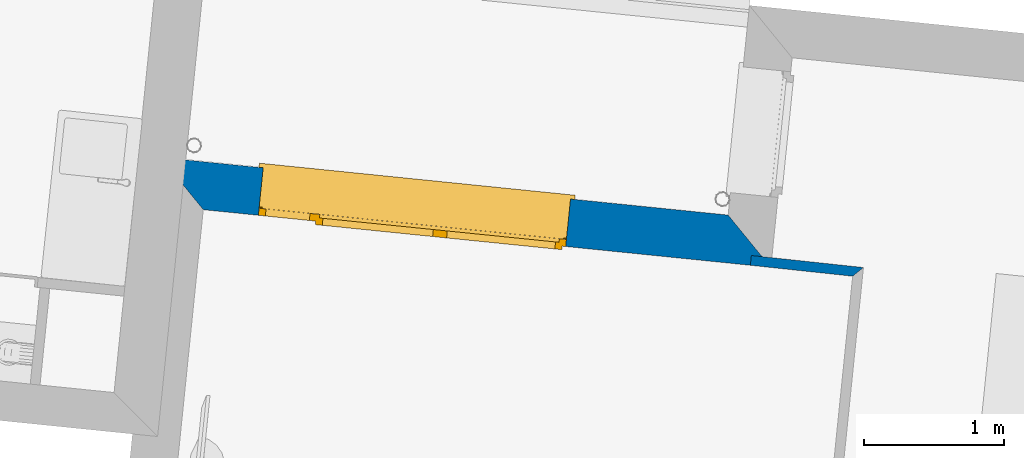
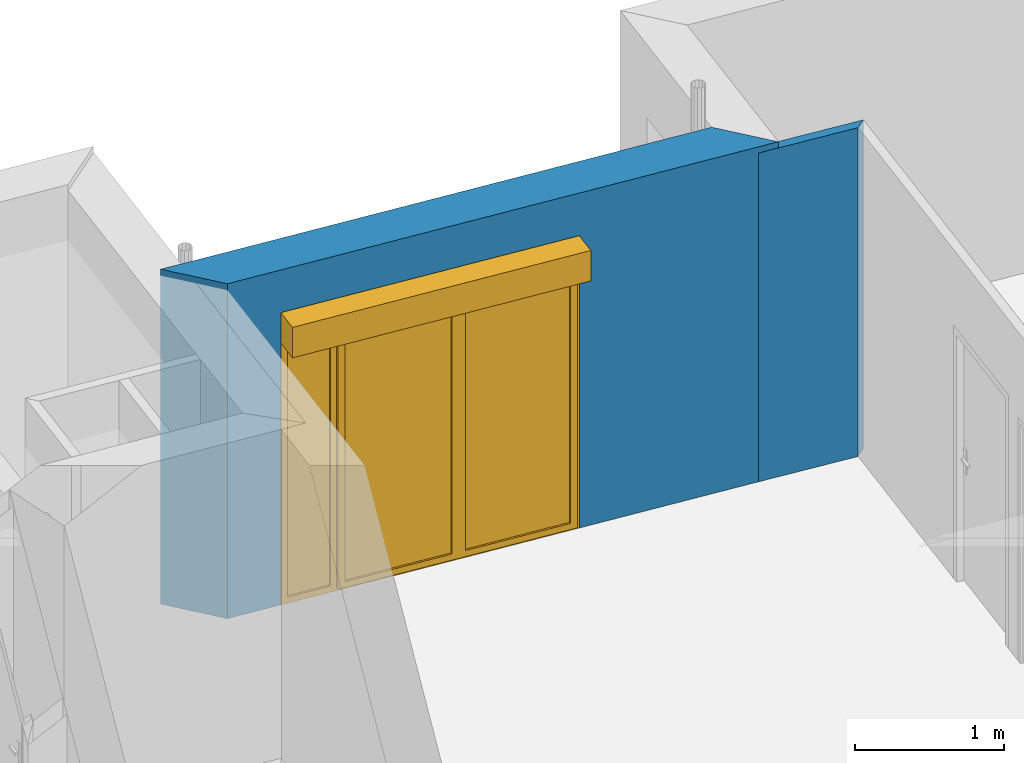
# One storey, part 66 of 164: 2 walls, 1 window, 1 opening.
"""IFC2X3 building model written with IfcOpenShell, lengths in millimetres."""

from ifc_helpers import new_model, entity, si_unit, converted_unit, derived_unit, money_unit, direction, frame, origin_with_axes, place, context, subcontext, project, spatial, polyline, outline, extrude, open_shell, faceted_brep, surface_model, source, transform, mapped, material, layer, layer_set, layer_usage, type_object, element, fill, save


model = new_model("IFC2X3")

# Units and contexts
model_context = context("Model", 3, precision=0.01, world=origin_with_axes(), true_north=direction((0.0, 1.0)))
body_context = subcontext(model_context, "Body", "Model", "MODEL_VIEW")
ifc_project = project(units=[si_unit("LENGTHUNIT", "METRE", prefix="MILLI"), si_unit("AREAUNIT", "SQUARE_METRE"), si_unit("VOLUMEUNIT", "CUBIC_METRE"), converted_unit("PLANEANGLEUNIT", "DEGREE", entity("IfcPlaneAngleMeasure", 0.0174532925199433), si_unit("PLANEANGLEUNIT", "RADIAN"), dimensions=[0, 0, 0, 0, 0, 0, 0]), money_unit("USD"), converted_unit("TIMEUNIT", "Year", entity("IfcTimeMeasure", 31557600.0), si_unit("TIMEUNIT", "SECOND"), dimensions=[0, 0, 1, 0, 0, 0, 0]), si_unit("MASSUNIT", "GRAM", prefix="KILO"), si_unit("THERMODYNAMICTEMPERATUREUNIT", "DEGREE_CELSIUS"), si_unit("LUMINOUSINTENSITYUNIT", "LUMEN"), si_unit("ENERGYUNIT", "JOULE", prefix="MEGA"), derived_unit("THERMALCONDUCTANCEUNIT", [(si_unit("POWERUNIT", "WATT"), 1), (si_unit("LENGTHUNIT", "METRE"), -1), (si_unit("THERMODYNAMICTEMPERATUREUNIT", "KELVIN"), -1)]), derived_unit("SPECIFICHEATCAPACITYUNIT", [(si_unit("ENERGYUNIT", "JOULE"), 1), (si_unit("MASSUNIT", "GRAM", prefix="KILO"), -1), (si_unit("THERMODYNAMICTEMPERATUREUNIT", "KELVIN"), -1)]), derived_unit("MASSDENSITYUNIT", [(si_unit("MASSUNIT", "GRAM", prefix="KILO"), 1), (si_unit("VOLUMEUNIT", "CUBIC_METRE"), -1)])], contexts=[model_context])

# Site, building, storey
site_placement = place(None, origin_with_axes())
site = spatial("IfcSite", under=ifc_project, at=site_placement, Name="Site", CompositionType="ELEMENT")
building_placement = place(site_placement, origin_with_axes())
building = spatial("IfcBuilding", under=site, at=building_placement, Name="Bâtiment", CompositionType="ELEMENT")
storey_placement = place(building_placement, frame((0.0, 0.0, 5750.0), z_axis=(0.0, 0.0, 1.0), x_axis=(1.0, 0.0, 0.0)))
storey = spatial("IfcBuildingStorey", under=building, at=storey_placement, Name="Etage1", CompositionType="ELEMENT", Elevation=5750.0)

# Wall
ifc_material_1 = material(Name="Hachure solide 268963992")
ifc_layer_1 = layer(ifc_material_1, 70.0, ventilated="UNKNOWN")
ifc_layer_set_1 = layer_set([ifc_layer_1], Name="Cloison 70 0826278243")
ifc_layer_usage_1 = layer_usage(ifc_layer_set_1, "AXIS2", "POSITIVE", 0.0)
wall_type_1 = type_object("IfcWallType", Name="Cloison 70 0826278243 70", PredefinedType="NOTDEFINED")
wall_1_placement = place(storey_placement, frame((2230381.889323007, -607089.6063491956, 0.0), z_axis=(0.0, 0.0, 1.0), x_axis=(0.9943267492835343, -0.1063687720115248, 0.0)))
element("IfcWallStandardCase", 1, at=wall_1_placement, inside=storey, type_object=wall_type_1, material=ifc_layer_usage_1, Name="Mur-148", context=body_context, shape_type="SweptSolid", body=[
    extrude(outline(polyline([(0.0, 0.0), (732.8617122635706, 0.0), (802.4980249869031, 70.0000000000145), (0.0, 70.00000000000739), (0.0, 0.0)])), origin_with_axes(), (0.0, 0.0, 1.0), 2700.0),
])

# Wall, opening, window
ifc_material_2 = material(Name="Parpaing 312445824")
ifc_layer_2 = layer(ifc_material_2, 180.0, ventilated="UNKNOWN")
ifc_material_3 = material(Name="Isolant styromousse 301821074")
ifc_layer_3 = layer(ifc_material_3, 160.0, ventilated="UNKNOWN")
ifc_layer_set_2 = layer_set([ifc_layer_2, ifc_layer_3], Name="isol int 18+16 0018356637")
ifc_layer_usage_2 = layer_usage(ifc_layer_set_2, "AXIS2", "NEGATIVE", 0.0)
wall_type_2 = type_object("IfcWallType", Name="isol int 18+16 0018356637 340", PredefinedType="NOTDEFINED")
wall_2_placement = place(storey_placement, frame((2226181.9085584, -606321.0365645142, 0.0), z_axis=(0.0, 0.0, 1.0), x_axis=(0.9948759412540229, -0.1011032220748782, 0.0)))
wall_2 = element("IfcWallStandardCase", 2, at=wall_2_placement, inside=storey, type_object=wall_type_2, material=ifc_layer_usage_2, Name="Mur-142", context=body_context, shape_type="SweptSolid", body=[
    extrude(outline(polyline([(340.0000000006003, -339.9999999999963), (4402.803978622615, -340.0000000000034), (4062.803978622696, 0.0), (-2.273736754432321e-10, 0.0), (340.0000000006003, -339.9999999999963)])), origin_with_axes(), (0.0, 0.0, 1.0), 2750.0),
])
opening_placement = place(wall_2_placement, frame((1834.470231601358, 0.0, 0.0), z_axis=(0.0, 0.0, 1.0), x_axis=(1.0, 0.0, 0.0)))
opening = element("IfcOpeningElement", 3, at=opening_placement, cuts=wall_2, Name="Fen-133", context=body_context, shape_type="Brep", body=[
    faceted_brep([(-1100.000000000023, -280.0000000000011, 2150.0), (1100.000000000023, -280.0000000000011, 2150.0), (1100.000000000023, 409.6578013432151, 2150.0), (-1100.000000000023, 409.6578013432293, 2150.0), (-1100.000000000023, -280.0000000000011, 2400.0), (1100.000000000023, -280.0000000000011, 2400.0), (1100.000000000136, -289.9999999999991, 2150.0), (1100.000000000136, -289.9999999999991, 0.0), (1100.000000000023, 409.6578013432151, 0.0), (-1100.000000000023, 409.6578013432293, 0.0), (-1100.000000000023, -289.999999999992, 2150.0), (-1100.000000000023, -289.999999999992, 0.0), (-1100.000000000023, -530.0000000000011, 2150.0), (-1100.000000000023, -530.0000000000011, 2400.0), (1100.000000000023, -530.0000000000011, 2400.0), (1100.000000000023, -530.0000000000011, 2150.0), (1100.000000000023, -749.6578013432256, 2150.0), (1100.000000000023, -749.6578013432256, 0.0), (-1100.000000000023, -749.6578013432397, 0.0), (-1100.000000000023, -749.6578013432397, 2150.0)], [[[0, 1, 2, 3]], [[1, 0, 4, 5]], [[1, 6, 7, 8, 2]], [[2, 8, 9, 3]], [[10, 0, 3, 9, 11]], [[0, 10, 12, 13, 4]], [[4, 13, 14, 5]], [[6, 1, 5, 14, 15]], [[6, 15, 16, 17, 7]], [[11, 9, 8, 7, 17, 18]], [[12, 10, 11, 18, 19]], [[12, 15, 14, 13]], [[15, 12, 19, 16]], [[19, 18, 17, 16]]]),
])
window_style = type_object("IfcWindowStyle", Name="Fenêtre châssis double variable 27", ConstructionType="NOTDEFINED", OperationType="TRIPLE_PANEL_VERTICAL", ParameterTakesPrecedence=False, Sizeable=False)
shared_shape = source(origin_with_axes(), body_context, "Body", "SurfaceModel", [
    surface_model("IfcShellBasedSurfaceModel", [(1100.0, -51.0, 40.00000000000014), (1100.0, -51.0, 50.00000000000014), (-1100.0, -51.0, 50.0), (-1100.0, -51.0, 40.0), (1130.0, -369.9999999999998, 28.96551724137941), (1130.0, -339.9999999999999, 30.00324289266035), (1100.0, -339.9999999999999, 30.00324289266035), (-1100.0, -339.9999999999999, 30.00324289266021), (-1130.0, -339.9999999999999, 30.00324289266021), (-1130.0, -369.9999999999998, 28.96551724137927), (1130.0, -369.9999999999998, 8.965517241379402), (-1130.0, -369.9999999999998, 8.965517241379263), (1130.0, -359.9999999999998, 18.9655172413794), (-1130.0, -359.9999999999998, 18.96551724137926)], [open_shell([[[0, 1, 2, 3]], [[4, 5, 6, 0, 3, 7, 8, 9]], [[10, 4, 9, 11]], [[12, 10, 11, 13]]])]),
    faceted_brep([(-1100.0, -60.0, 2400.0), (-1097.0, -60.0, 2400.0), (-1097.0, 189.9999999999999, 2400.0), (-1100.0, 189.9999999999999, 2400.0), (-1100.0, -60.0, 2150.0), (-1097.0, -60.0, 2150.0), (-1097.0, 189.9999999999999, 2150.0), (-1100.0, 189.9999999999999, 2150.0)], [[[0, 1, 2, 3]], [[4, 5, 1, 0]], [[1, 5, 6, 2]], [[3, 2, 6, 7]], [[0, 3, 7, 4]], [[7, 6, 5, 4]]]),
    faceted_brep([(1097.0, -59.99999999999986, 2400.0), (1100.0, -59.99999999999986, 2400.0), (1100.0, 190.0000000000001, 2400.0), (1097.0, 190.0000000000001, 2400.0), (1097.0, -59.99999999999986, 2150.0), (1100.0, -59.99999999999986, 2150.0), (1100.0, 190.0000000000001, 2150.0), (1097.0, 190.0000000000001, 2150.0)], [[[0, 1, 2, 3]], [[4, 5, 1, 0]], [[1, 5, 6, 2]], [[3, 2, 6, 7]], [[0, 3, 7, 4]], [[7, 6, 5, 4]]]),
    faceted_brep([(-1097.0, -59.99999999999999, 2150.0), (1097.0, -59.99999999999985, 2150.0), (1097.0, -59.99999999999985, 2400.0), (-1097.0, -59.99999999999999, 2400.0), (-1097.0, -56.99999999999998, 2150.0), (1097.0, -56.99999999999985, 2150.0), (1097.0, -56.99999999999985, 2397.0), (1097.0, 187.0000000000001, 2397.0), (1097.0, 187.0000000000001, 2153.0), (1097.0, -37.99999999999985, 2153.0), (1097.0, -37.99999999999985, 2150.0), (1097.0, 190.0000000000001, 2150.0), (1097.0, 190.0000000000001, 2400.0), (-1097.0, 189.9999999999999, 2400.0), (-1097.0, 189.9999999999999, 2150.0), (-1097.0, -37.99999999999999, 2150.0), (-1097.0, -37.99999999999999, 2153.0), (-1097.0, 187.0, 2153.0), (-1097.0, 187.0, 2397.0), (-1097.0, -56.99999999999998, 2397.0)], [[[0, 1, 2, 3]], [[4, 5, 1, 0]], [[1, 5, 6, 7, 8, 9, 10, 11, 12, 2]], [[3, 2, 12, 13]], [[0, 3, 13, 14, 15, 16, 17, 18, 19, 4]], [[19, 6, 5, 4]], [[18, 7, 6, 19]], [[17, 8, 7, 18]], [[16, 9, 8, 17]], [[15, 10, 9, 16]], [[14, 11, 10, 15]], [[13, 12, 11, 14]]]),
    faceted_brep([(-1094.0, -40.37442957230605, 2256.419644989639), (-1094.0, -41.99999999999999, 2275.0), (-1094.0, -40.37442957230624, 2293.580355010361), (-1094.0, -35.54711042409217, 2311.596155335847), (-1094.0, -27.66471820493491, 2328.5), (-1094.0, -16.96675541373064, 2343.77827423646), (-1094.0, -3.778274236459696, 2356.96675541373), (-1094.0, 11.5, 2367.664718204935), (-1094.0, 28.40384466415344, 2375.547110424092), (-1094.0, 46.41964498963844, 2380.374429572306), (-1094.0, 64.99999999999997, 2382.0), (-1094.0, 83.58035501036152, 2380.374429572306), (-1094.0, 101.5961553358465, 2375.547110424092), (-1094.0, 118.4999999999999, 2367.664718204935), (-1094.0, 133.7782742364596, 2356.96675541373), (-1094.0, 146.9667554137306, 2343.77827423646), (-1094.0, 157.6647182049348, 2328.5), (-1094.0, 165.5471104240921, 2311.596155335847), (-1094.0, 170.3744295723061, 2293.580355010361), (-1094.0, 171.9999999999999, 2275.0), (-1094.0, 170.3744295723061, 2256.419644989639), (-1094.0, 165.5471104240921, 2238.403844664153), (-1094.0, 157.6647182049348, 2221.5), (-1094.0, 146.9667554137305, 2206.22172576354), (-1094.0, 133.7782742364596, 2193.033244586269), (-1094.0, 118.4999999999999, 2182.335281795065), (-1094.0, 101.5961553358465, 2174.452889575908), (-1094.0, 83.58035501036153, 2169.625570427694), (-1094.0, 65.0, 2168.0), (-1094.0, 46.41964498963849, 2169.625570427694), (-1094.0, 28.40384466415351, 2174.452889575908), (-1094.0, 11.5000000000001, 2182.335281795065), (-1094.0, -3.778274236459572, 2193.033244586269), (-1094.0, -16.96675541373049, 2206.22172576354), (-1094.0, -27.66471820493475, 2221.5), (-1094.0, -35.54711042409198, 2238.403844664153), (1094.0, -40.37442957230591, 2256.419644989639), (1094.0, -41.99999999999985, 2275.0), (1094.0, -40.3744295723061, 2293.580355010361), (1094.0, -35.54711042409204, 2311.596155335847), (1094.0, -27.66471820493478, 2328.5), (1094.0, -16.9667554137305, 2343.77827423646), (1094.0, -3.778274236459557, 2356.96675541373), (1094.0, 11.50000000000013, 2367.664718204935), (1094.0, 28.40384466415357, 2375.547110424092), (1094.0, 46.41964498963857, 2380.374429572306), (1094.0, 65.00000000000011, 2382.0), (1094.0, 83.58035501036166, 2380.374429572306), (1094.0, 101.5961553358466, 2375.547110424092), (1094.0, 118.5000000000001, 2367.664718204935), (1094.0, 133.7782742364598, 2356.96675541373), (1094.0, 146.9667554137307, 2343.77827423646), (1094.0, 157.664718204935, 2328.5), (1094.0, 165.5471104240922, 2311.596155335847), (1094.0, 170.3744295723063, 2293.580355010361), (1094.0, 172.0, 2275.0), (1094.0, 170.3744295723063, 2256.419644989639), (1094.0, 165.5471104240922, 2238.403844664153), (1094.0, 157.6647182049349, 2221.5), (1094.0, 146.9667554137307, 2206.22172576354), (1094.0, 133.7782742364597, 2193.033244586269), (1094.0, 118.5000000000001, 2182.335281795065), (1094.0, 101.5961553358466, 2174.452889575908), (1094.0, 83.58035501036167, 2169.625570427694), (1094.0, 65.00000000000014, 2168.0), (1094.0, 46.41964498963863, 2169.625570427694), (1094.0, 28.40384466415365, 2174.452889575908), (1094.0, 11.50000000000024, 2182.335281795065), (1094.0, -3.778274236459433, 2193.033244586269), (1094.0, -16.96675541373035, 2206.22172576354), (1094.0, -27.66471820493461, 2221.5), (1094.0, -35.54711042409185, 2238.403844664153)], [[[0, 1, 2, 3, 4, 5, 6, 7, 8, 9, 10, 11, 12, 13, 14, 15, 16, 17, 18, 19, 20, 21, 22, 23, 24, 25, 26, 27, 28, 29, 30, 31, 32, 33, 34, 35]], [[0, 36, 37, 1]], [[1, 37, 38, 2]], [[2, 38, 39, 3]], [[3, 39, 40, 4]], [[4, 40, 41, 5]], [[5, 41, 42, 6]], [[6, 42, 43, 7]], [[7, 43, 44, 8]], [[8, 44, 45, 9]], [[9, 45, 46, 10]], [[10, 46, 47, 11]], [[11, 47, 48, 12]], [[12, 48, 49, 13]], [[13, 49, 50, 14]], [[14, 50, 51, 15]], [[15, 51, 52, 16]], [[16, 52, 53, 17]], [[17, 53, 54, 18]], [[18, 54, 55, 19]], [[19, 55, 56, 20]], [[20, 56, 57, 21]], [[21, 57, 58, 22]], [[22, 58, 59, 23]], [[23, 59, 60, 24]], [[24, 60, 61, 25]], [[25, 61, 62, 26]], [[26, 62, 63, 27]], [[27, 63, 64, 28]], [[28, 64, 65, 29]], [[29, 65, 66, 30]], [[30, 66, 67, 31]], [[31, 67, 68, 32]], [[32, 68, 69, 33]], [[33, 69, 70, 34]], [[34, 70, 71, 35]], [[35, 71, 36, 0]], [[36, 71, 70, 69, 68, 67, 66, 65, 64, 63, 62, 61, 60, 59, 58, 57, 56, 55, 54, 53, 52, 51, 50, 49, 48, 47, 46, 45, 44, 43, 42, 41, 40, 39, 38, 37]]]),
    faceted_brep([(1100.0, -34.99999999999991, 30.0), (1100.0, -34.99999999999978, 2150.0), (1100.0, -59.99999999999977, 2150.0), (1100.0, -59.99999999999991, 30.0), (1075.0, -34.99999999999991, 30.0), (1075.0, -34.99999999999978, 2150.0), (1075.0, -37.99999999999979, 2150.0), (1097.0, -37.99999999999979, 2150.0), (1097.0, -56.99999999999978, 2150.0), (1075.0, -56.99999999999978, 2150.0), (1075.0, -59.99999999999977, 2150.0), (1075.0, -59.99999999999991, 30.0), (1075.0, -56.99999999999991, 30.0), (1097.0, -56.99999999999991, 30.0), (1097.0, -37.99999999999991, 30.0), (1075.0, -37.99999999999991, 30.0)], [[[0, 1, 2, 3]], [[4, 5, 1, 0]], [[1, 5, 6, 7, 8, 9, 10, 2]], [[3, 2, 10, 11]], [[0, 3, 11, 12, 13, 14, 15, 4]], [[15, 6, 5, 4]], [[14, 7, 6, 15]], [[13, 8, 7, 14]], [[12, 9, 8, 13]], [[11, 10, 9, 12]]]),
    faceted_brep([(-1100.0, -34.99999999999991, 30.0), (-1100.0, -59.99999999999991, 30.0), (-1100.0, -59.99999999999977, 2150.0), (-1100.0, -34.99999999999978, 2150.0), (-1075.0, -34.99999999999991, 30.0), (-1075.0, -37.99999999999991, 30.0), (-1097.0, -37.99999999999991, 30.0), (-1097.0, -56.99999999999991, 30.0), (-1075.0, -56.99999999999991, 30.0), (-1075.0, -59.99999999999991, 30.0), (-1075.0, -59.99999999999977, 2150.0), (-1075.0, -56.99999999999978, 2150.0), (-1097.0, -56.99999999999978, 2150.0), (-1097.0, -37.99999999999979, 2150.0), (-1075.0, -37.99999999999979, 2150.0), (-1075.0, -34.99999999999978, 2150.0)], [[[0, 1, 2, 3]], [[0, 4, 5, 6, 7, 8, 9, 1]], [[1, 9, 10, 2]], [[3, 2, 10, 11, 12, 13, 14, 15]], [[4, 0, 3, 15]], [[5, 4, 15, 14]], [[6, 5, 14, 13]], [[7, 6, 13, 12]], [[8, 7, 12, 11]], [[9, 8, 11, 10]]]),
    faceted_brep([(1097.0, -46.6666666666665, 2275.0), (1097.0, -46.6666666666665, 2266.666666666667), (-1097.0, -46.66666666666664, 2266.666666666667), (-1097.0, -46.66666666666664, 2275.0), (1097.0, -51.66666666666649, 2275.0), (1097.0, -51.66666666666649, 2266.666666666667), (1097.0, -49.99999999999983, 2250.0), (1097.0, -44.99999999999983, 2250.0), (-1097.0, -44.99999999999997, 2250.0), (-1097.0, -49.99999999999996, 2250.0), (-1097.0, -51.66666666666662, 2266.666666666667), (-1097.0, -51.66666666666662, 2275.0)], [[[0, 1, 2, 3]], [[4, 5, 6, 7, 1, 0]], [[2, 1, 7, 8]], [[3, 2, 8, 9, 10, 11]], [[3, 11, 4, 0]], [[10, 5, 4, 11]], [[9, 6, 5, 10]], [[8, 7, 6, 9]]]),
    faceted_brep([(-1097.0, -44.99999999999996, 2250.0), (1097.0, -44.99999999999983, 2250.0), (1097.0, -46.6666666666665, 2233.333333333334), (-1097.0, -46.66666666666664, 2233.333333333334), (-1097.0, -49.99999999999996, 2250.0), (1097.0, -49.99999999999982, 2250.0), (1097.0, -51.66666666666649, 2233.333333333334), (1097.0, -51.66666666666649, 2216.666666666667), (1097.0, -49.99999999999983, 2200.0), (1097.0, -44.99999999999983, 2200.0), (1097.0, -46.6666666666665, 2216.666666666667), (-1097.0, -46.66666666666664, 2216.666666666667), (-1097.0, -44.99999999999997, 2200.0), (-1097.0, -49.99999999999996, 2200.0), (-1097.0, -51.66666666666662, 2216.666666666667), (-1097.0, -51.66666666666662, 2233.333333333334)], [[[0, 1, 2, 3]], [[4, 5, 1, 0]], [[1, 5, 6, 7, 8, 9, 10, 2]], [[3, 2, 10, 11]], [[0, 3, 11, 12, 13, 14, 15, 4]], [[15, 6, 5, 4]], [[14, 7, 6, 15]], [[13, 8, 7, 14]], [[12, 9, 8, 13]], [[11, 10, 9, 12]]]),
    faceted_brep([(-1097.0, -44.99999999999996, 2200.0), (1097.0, -44.99999999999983, 2200.0), (1097.0, -46.6666666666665, 2183.333333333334), (-1097.0, -46.66666666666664, 2183.333333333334), (-1097.0, -49.99999999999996, 2200.0), (1097.0, -49.99999999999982, 2200.0), (1097.0, -51.66666666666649, 2183.333333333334), (1097.0, -51.66666666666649, 2166.666666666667), (1097.0, -49.99999999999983, 2150.000000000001), (1097.0, -44.99999999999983, 2150.000000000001), (1097.0, -46.6666666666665, 2166.666666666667), (-1097.0, -46.66666666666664, 2166.666666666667), (-1097.0, -44.99999999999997, 2150.000000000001), (-1097.0, -49.99999999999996, 2150.000000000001), (-1097.0, -51.66666666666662, 2166.666666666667), (-1097.0, -51.66666666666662, 2183.333333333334)], [[[0, 1, 2, 3]], [[4, 5, 1, 0]], [[1, 5, 6, 7, 8, 9, 10, 2]], [[3, 2, 10, 11]], [[0, 3, 11, 12, 13, 14, 15, 4]], [[15, 6, 5, 4]], [[14, 7, 6, 15]], [[13, 8, 7, 14]], [[12, 9, 8, 13]], [[11, 10, 9, 12]]]),
    faceted_brep([(-1075.0, 0.0, 2100.0), (-1100.0, 0.0, 2100.0), (-1100.0, -50.00000000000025, 2100.0), (-1050.0, -50.00000000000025, 2100.0), (-1050.0, -25.00000000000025, 2100.0), (-1075.0, -25.00000000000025, 2100.0), (-1075.0, 0.0, 50.00000000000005), (-1100.0, 0.0, 50.00000000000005), (-1100.0, -49.99999999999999, 50.00000000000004), (-1050.0, -49.99999999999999, 50.00000000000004), (-1050.0, -25.0, 50.00000000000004), (-1075.0, -25.0, 50.00000000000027)], [[[0, 1, 2, 3, 4, 5]], [[6, 7, 1, 0]], [[1, 7, 8, 2]], [[2, 8, 9, 3]], [[4, 3, 9, 10]], [[10, 11, 5, 4]], [[5, 11, 6, 0]], [[11, 10, 9, 8, 7, 6]]]),
    faceted_brep([(664.9999999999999, -25.00000000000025, 2100.0), (664.9999999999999, -50.00000000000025, 2100.0), (735.0, -50.00000000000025, 2100.0), (735.0, 0.0, 2100.0), (690.0, 0.0, 2100.0), (690.0, -25.00000000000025, 2100.0), (664.9999999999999, -25.0, 50.00000000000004), (664.9999999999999, -49.99999999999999, 50.00000000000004), (735.0, -49.99999999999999, 50.00000000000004), (735.0, 0.0, 50.00000000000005), (690.0, 0.0, 50.00000000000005), (690.0, -25.0, 50.00000000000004)], [[[0, 1, 2, 3, 4, 5]], [[6, 7, 1, 0]], [[8, 2, 1, 7]], [[9, 3, 2, 8]], [[4, 3, 9, 10]], [[10, 11, 5, 4]], [[5, 11, 6, 0]], [[11, 10, 9, 8, 7, 6]]]),
    faceted_brep([(664.9999999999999, -25.0, 50.00000000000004), (664.9999999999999, -49.99999999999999, 50.00000000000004), (735.0, -49.99999999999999, 50.00000000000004), (735.0, 0.0, 50.00000000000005), (690.0, 0.0, 50.00000000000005), (690.0, -25.0, 50.00000000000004), (-1050.0, -25.0, 50.00000000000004), (-1050.0, -49.99999999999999, 50.00000000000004), (-1100.0, -49.99999999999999, 50.00000000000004), (-1100.0, -49.99999999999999, 0.0), (1100.0, -49.99999999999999, 0.0), (1100.0, -49.99999999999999, 50.00000000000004), (1050.0, -49.99999999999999, 50.00000000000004), (1050.0, 0.0, 50.00000000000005), (-1075.0, 0.0, 24.99999999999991), (690.0, 0.0, 24.99999999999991), (1100.0, 0.0, 50.00000000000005), (1100.0, 0.0, 0.0), (-1100.0, 0.0, 0.0), (-1100.0, 0.0, 50.00000000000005), (-1075.0, 0.0, 50.00000000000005), (690.0, -25.0, 24.99999999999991), (-1075.0, -25.0, 24.99999999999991), (-1075.0, -25.0, 50.00000000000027)], [[[0, 1, 2, 3, 4, 5]], [[6, 7, 1, 0]], [[8, 9, 10, 11, 12, 2, 1, 7]], [[13, 3, 2, 12]], [[14, 15, 4, 3, 13, 16, 17, 18, 19, 20]], [[15, 21, 5, 4]], [[5, 21, 22, 23, 6, 0]], [[23, 20, 19, 8, 7, 6]], [[19, 18, 9, 8]], [[18, 17, 10, 9]], [[17, 16, 11, 10]], [[16, 13, 12, 11]], [[14, 22, 21, 15]], [[23, 22, 14, 20]]]),
    faceted_brep([(-1075.0, 0.0, 2100.0), (-1100.0, 0.0, 2100.0), (-1100.0, 0.0, 2150.0), (1100.0, 0.0, 2150.0), (1100.0, 0.0, 2100.0), (1050.0, 0.0, 2100.0), (735.0, 0.0, 2100.0), (690.0, 0.0, 2100.0), (690.0, 0.0, 2125.0), (-1075.0, 0.0, 2125.0), (-1075.0, -25.00000000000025, 2100.0), (-1050.0, -25.00000000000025, 2100.0), (-1050.0, -50.00000000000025, 2100.0), (-1100.0, -50.00000000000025, 2100.0), (-1100.0, -50.00000000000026, 2150.0), (1100.0, -50.00000000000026, 2150.0), (1100.0, -50.00000000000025, 2100.0), (1050.0, -50.00000000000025, 2100.0), (735.0, -50.00000000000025, 2100.0), (690.0, -25.00000000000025, 2100.0), (664.9999999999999, -50.00000000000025, 2100.0), (664.9999999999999, -25.00000000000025, 2100.0), (690.0, -25.00000000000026, 2125.0), (-1075.0, -25.00000000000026, 2125.0)], [[[0, 1, 2, 3, 4, 5, 6, 7, 8, 9]], [[10, 11, 12, 13, 1, 0]], [[2, 1, 13, 14]], [[3, 2, 14, 15]], [[4, 3, 15, 16]], [[5, 4, 16, 17]], [[6, 5, 17, 18]], [[19, 7, 6, 18, 20, 21]], [[7, 19, 22, 8]], [[8, 22, 23, 9]], [[9, 23, 10, 0]], [[21, 11, 10, 23, 22, 19]], [[21, 20, 12, 11]], [[18, 17, 16, 15, 14, 13, 12, 20]]]),
    faceted_brep([(1050.0, -49.99999999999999, 50.0), (1050.0, 0.0, 50.00000000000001), (1100.0, 0.0, 50.00000000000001), (1100.0, -49.99999999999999, 50.0), (1050.0, -50.00000000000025, 2100.0), (1050.0, 0.0, 2100.0), (1100.0, 0.0, 2100.0), (1100.0, -50.00000000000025, 2100.0)], [[[0, 1, 2, 3]], [[4, 5, 1, 0]], [[1, 5, 6, 2]], [[3, 2, 6, 7]], [[0, 3, 7, 4]], [[7, 6, 5, 4]]]),
    faceted_brep([(-1025.0, -25.00000000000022, 2075.0), (-1025.0, 24.99999999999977, 2075.0), (-1075.0, 24.99999999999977, 2075.0), (-1075.0, -25.00000000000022, 2075.0), (-1025.0, -24.99999999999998, 75.00000000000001), (-1025.0, 25.00000000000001, 75.00000000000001), (-1075.0, 25.00000000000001, 75.00000000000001), (-1075.0, -24.99999999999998, 75.00000000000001)], [[[0, 1, 2, 3]], [[4, 5, 1, 0]], [[1, 5, 6, 2]], [[3, 2, 6, 7]], [[0, 3, 7, 4]], [[7, 6, 5, 4]]]),
    faceted_brep([(-249.9999999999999, -25.00000000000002, 75.00000000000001), (-249.9999999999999, 24.99999999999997, 75.00000000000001), (-199.9999999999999, 24.99999999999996, 75.00000000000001), (-199.9999999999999, -25.00000000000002, 75.00000000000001), (-249.9999999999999, -25.00000000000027, 2075.0), (-249.9999999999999, 24.99999999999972, 2075.0), (-199.9999999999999, 24.99999999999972, 2075.0), (-199.9999999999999, -25.00000000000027, 2075.0)], [[[0, 1, 2, 3]], [[4, 5, 1, 0]], [[1, 5, 6, 2]], [[3, 2, 6, 7]], [[0, 3, 7, 4]], [[7, 6, 5, 4]]]),
    faceted_brep([(-199.9999999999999, -25.00000000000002, 25.0), (-199.9999999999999, 24.99999999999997, 25.00000000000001), (-199.9999999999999, 24.99999999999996, 75.00000000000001), (-199.9999999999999, -25.00000000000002, 75.00000000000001), (-1075.0, -24.99999999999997, 25.0), (-1075.0, 25.00000000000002, 25.00000000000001), (-1075.0, 25.00000000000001, 75.00000000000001), (-1025.0, 25.00000000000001, 75.00000000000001), (-249.9999999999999, 24.99999999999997, 75.00000000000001), (-249.9999999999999, -25.00000000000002, 75.00000000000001), (-1025.0, -24.99999999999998, 75.00000000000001), (-1075.0, -24.99999999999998, 75.00000000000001)], [[[0, 1, 2, 3]], [[4, 5, 1, 0]], [[1, 5, 6, 7, 8, 2]], [[3, 2, 8, 9]], [[0, 3, 9, 10, 11, 4]], [[11, 6, 5, 4]], [[10, 7, 6, 11]], [[9, 8, 7, 10]]]),
    faceted_brep([(-1075.0, -25.00000000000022, 2125.0), (-1075.0, 24.99999999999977, 2125.0), (-1075.0, 24.99999999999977, 2075.0), (-1075.0, -25.00000000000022, 2075.0), (-199.9999999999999, -25.00000000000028, 2125.0), (-199.9999999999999, 24.99999999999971, 2125.0), (-199.9999999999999, 24.99999999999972, 2075.0), (-249.9999999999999, 24.99999999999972, 2075.0), (-1025.0, 24.99999999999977, 2075.0), (-1025.0, -25.00000000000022, 2075.0), (-249.9999999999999, -25.00000000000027, 2075.0), (-199.9999999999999, -25.00000000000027, 2075.0)], [[[0, 1, 2, 3]], [[4, 5, 1, 0]], [[1, 5, 6, 7, 8, 2]], [[3, 2, 8, 9]], [[0, 3, 9, 10, 11, 4]], [[11, 6, 5, 4]], [[10, 7, 6, 11]], [[9, 8, 7, 10]]]),
    surface_model("IfcShellBasedSurfaceModel", [(-1025.0, -10.00000000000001, 75.00000000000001), (-249.9999999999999, -10.00000000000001, 75.00000000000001), (-249.9999999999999, -10.00000000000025, 2075.0), (-1025.0, -10.00000000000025, 2075.0)], [open_shell([[[0, 1, 2, 3]]])]),
    surface_model("IfcShellBasedSurfaceModel", [(-1025.0, 9.999999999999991, 75.00000000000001), (-1025.0, 9.99999999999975, 2075.0), (-249.9999999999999, 9.99999999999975, 2075.0), (-249.9999999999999, 9.999999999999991, 75.00000000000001)], [open_shell([[[0, 1, 2, 3]]])]),
    faceted_brep([(-149.9999999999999, -25.00000000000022, 2075.0), (-149.9999999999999, 24.99999999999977, 2075.0), (-199.9999999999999, 24.99999999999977, 2075.0), (-199.9999999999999, -25.00000000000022, 2075.0), (-149.9999999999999, -24.99999999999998, 75.00000000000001), (-149.9999999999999, 25.00000000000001, 75.00000000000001), (-199.9999999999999, 25.00000000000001, 75.00000000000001), (-199.9999999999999, -24.99999999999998, 75.00000000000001)], [[[0, 1, 2, 3]], [[4, 5, 1, 0]], [[1, 5, 6, 2]], [[3, 2, 6, 7]], [[0, 3, 7, 4]], [[7, 6, 5, 4]]]),
    faceted_brep([(640.0, -25.00000000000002, 75.00000000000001), (640.0, 24.99999999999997, 75.00000000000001), (690.0, 24.99999999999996, 75.00000000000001), (690.0, -25.00000000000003, 75.00000000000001), (640.0, -25.00000000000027, 2075.0), (640.0, 24.99999999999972, 2075.0), (690.0, 24.99999999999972, 2075.0), (690.0, -25.00000000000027, 2075.0)], [[[0, 1, 2, 3]], [[4, 5, 1, 0]], [[1, 5, 6, 2]], [[3, 2, 6, 7]], [[0, 3, 7, 4]], [[7, 6, 5, 4]]]),
    faceted_brep([(690.0, -25.00000000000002, 25.0), (690.0, 24.99999999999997, 25.00000000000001), (690.0, 24.99999999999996, 75.00000000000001), (690.0, -25.00000000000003, 75.00000000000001), (-199.9999999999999, -24.99999999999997, 25.0), (-199.9999999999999, 25.00000000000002, 25.00000000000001), (-199.9999999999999, 25.00000000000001, 75.00000000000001), (-149.9999999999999, 25.00000000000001, 75.00000000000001), (640.0, 24.99999999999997, 75.00000000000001), (640.0, -25.00000000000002, 75.00000000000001), (-149.9999999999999, -24.99999999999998, 75.00000000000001), (-199.9999999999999, -24.99999999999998, 75.00000000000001)], [[[0, 1, 2, 3]], [[4, 5, 1, 0]], [[1, 5, 6, 7, 8, 2]], [[3, 2, 8, 9]], [[0, 3, 9, 10, 11, 4]], [[11, 6, 5, 4]], [[10, 7, 6, 11]], [[9, 8, 7, 10]]]),
    faceted_brep([(-199.9999999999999, -25.00000000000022, 2125.0), (-199.9999999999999, 24.99999999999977, 2125.0), (-199.9999999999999, 24.99999999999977, 2075.0), (-199.9999999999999, -25.00000000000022, 2075.0), (690.0, -25.00000000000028, 2125.0), (690.0, 24.99999999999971, 2125.0), (690.0, 24.99999999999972, 2075.0), (640.0, 24.99999999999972, 2075.0), (-149.9999999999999, 24.99999999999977, 2075.0), (-149.9999999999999, -25.00000000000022, 2075.0), (640.0, -25.00000000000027, 2075.0), (690.0, -25.00000000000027, 2075.0)], [[[0, 1, 2, 3]], [[4, 5, 1, 0]], [[1, 5, 6, 7, 8, 2]], [[3, 2, 8, 9]], [[0, 3, 9, 10, 11, 4]], [[11, 6, 5, 4]], [[10, 7, 6, 11]], [[9, 8, 7, 10]]]),
    surface_model("IfcShellBasedSurfaceModel", [(-149.9999999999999, -10.00000000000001, 75.00000000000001), (640.0, -10.00000000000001, 75.00000000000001), (640.0, -10.00000000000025, 2075.0), (-149.9999999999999, -10.00000000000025, 2075.0)], [open_shell([[[0, 1, 2, 3]]])]),
    surface_model("IfcShellBasedSurfaceModel", [(-149.9999999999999, 9.999999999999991, 75.00000000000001), (-149.9999999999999, 9.99999999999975, 2075.0), (640.0, 9.99999999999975, 2075.0), (640.0, 9.999999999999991, 75.00000000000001)], [open_shell([[[0, 1, 2, 3]]])]),
    surface_model("IfcShellBasedSurfaceModel", [(735.0, -34.99999999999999, 49.99999999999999), (1050.0, -34.99999999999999, 49.99999999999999), (1050.0, -35.00000000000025, 2100.0), (735.0, -35.00000000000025, 2100.0)], [open_shell([[[0, 1, 2, 3]]])]),
    surface_model("IfcShellBasedSurfaceModel", [(735.0, -15.0, 49.99999999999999), (735.0, -15.00000000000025, 2100.0), (1050.0, -15.00000000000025, 2100.0), (1050.0, -15.0, 49.99999999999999)], [open_shell([[[0, 1, 2, 3]]])]),
])
window_placement = place(opening_placement, frame((1100.000000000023, 0.0, 0.0), z_axis=(0.0, 0.0, 1.0), x_axis=(-1.0, 0.0, 0.0)))
window = element("IfcWindow", 4, at=window_placement, inside=storey, type_object=window_style, Name="Fen-133", OverallHeight=2150.0, OverallWidth=2200.0, context=body_context, shape_type="MappedRepresentation", body=[
    mapped(shared_shape, transform((1100.000000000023, 340.0000000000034, 0.0))),
])
fill(opening, window)

save(model, "model.ifc")
